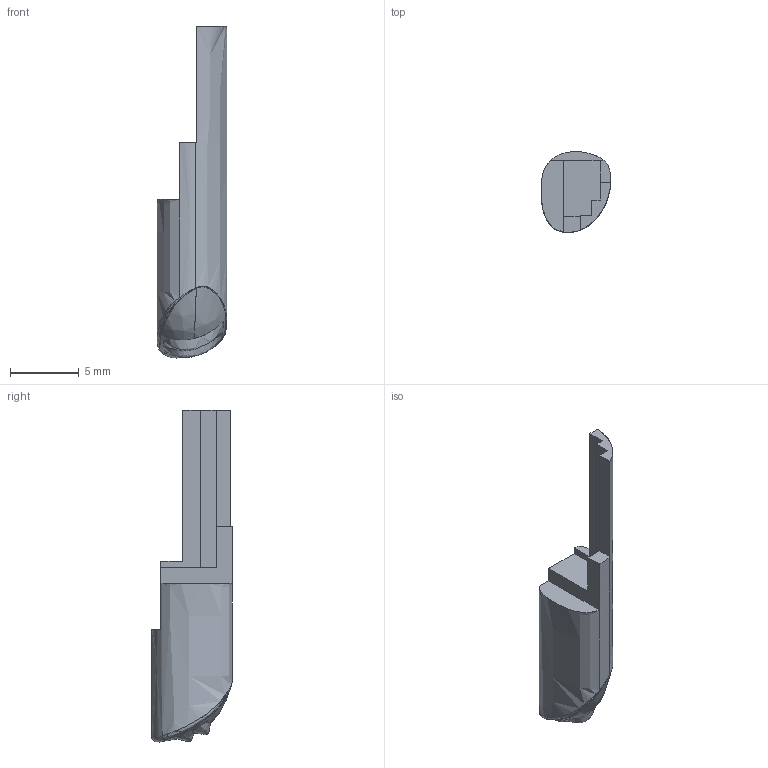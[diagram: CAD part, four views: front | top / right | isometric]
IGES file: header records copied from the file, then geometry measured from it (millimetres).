
Start section:  PTC IGES file: jc_button_eject_pcmcia_prt.igs
Global section: file name: jc_button_eject_pcmcia_prt.igs; native system: Pro/ENGINEER by Parametric Technology Corporation; preprocessor: 2000030; author: ECaille; organization: Unknown; date: 000803.091950; units: millimetre
Bounding box: 5.07 x 5.9 x 24.18 mm (x, y, z)
Surface area: 370.2 mm2 (no closed solid volume)
Topology: 0 solids, 0 shells, 38 faces, 328 edges, 448 vertices
Faces by surface type: bspline 32, extrusion 6
